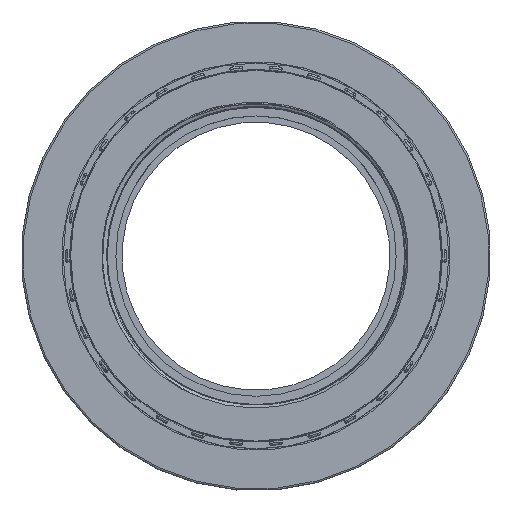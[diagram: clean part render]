
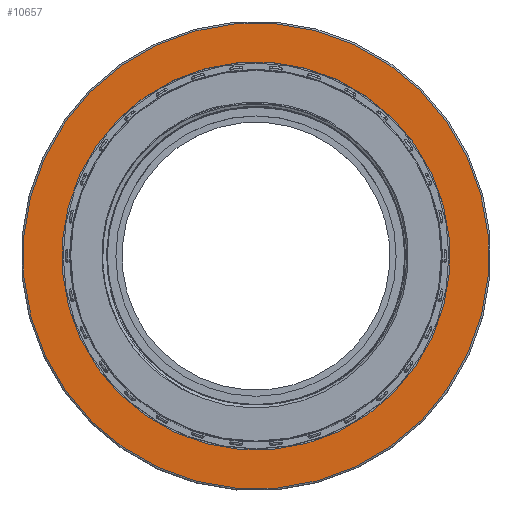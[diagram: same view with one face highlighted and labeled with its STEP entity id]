
A CAD part, top view. The second image highlights one B-rep face of the part: STEP entity #10657.
In plain terms, the highlighted planar face has unit normal (0, 0, 1).
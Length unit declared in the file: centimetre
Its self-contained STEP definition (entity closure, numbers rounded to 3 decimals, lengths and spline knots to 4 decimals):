
#2108=FACE_BOUND('',#3083,.T.);
#2480=FACE_OUTER_BOUND('',#3082,.T.);
#3082=EDGE_LOOP('',(#8271));
#3083=EDGE_LOOP('',(#8272));
#3694=CIRCLE('',#11555,6.65);
#3696=CIRCLE('',#11558,5.54);
#4493=VERTEX_POINT('',#28160);
#4495=VERTEX_POINT('',#28165);
#5815=EDGE_CURVE('',#4493,#4493,#3694,.T.);
#5817=EDGE_CURVE('',#4495,#4495,#3696,.T.);
#8271=ORIENTED_EDGE('',*,*,#5815,.F.);
#8272=ORIENTED_EDGE('',*,*,#5817,.T.);
#9617=PLANE('',#11557);
#10657=ADVANCED_FACE('',(#2480,#2108),#9617,.T.);
#11555=AXIS2_PLACEMENT_3D('',#28161,#13774,#13775);
#11557=AXIS2_PLACEMENT_3D('',#28164,#13778,#13779);
#11558=AXIS2_PLACEMENT_3D('',#28166,#13780,#13781);
#13774=DIRECTION('center_axis',(0.,0.,
-1.));
#13775=DIRECTION('ref_axis',(0.419,0.908,0.));
#13778=DIRECTION('center_axis',(0.,0.,
1.));
#13779=DIRECTION('ref_axis',(0.908,-0.419,0.));
#13780=DIRECTION('center_axis',(0.,0.,
-1.));
#13781=DIRECTION('ref_axis',(0.419,0.908,0.));
#28160=CARTESIAN_POINT('',(-2.7888,-6.037,2.9));
#28161=CARTESIAN_POINT('Origin',(0.,0.,
2.9));
#28164=CARTESIAN_POINT('Origin',(-2.8098,-6.0824,2.9));
#28165=CARTESIAN_POINT('',(-2.3233,-5.0293,2.9));
#28166=CARTESIAN_POINT('Origin',(0.,0.,
2.9));
